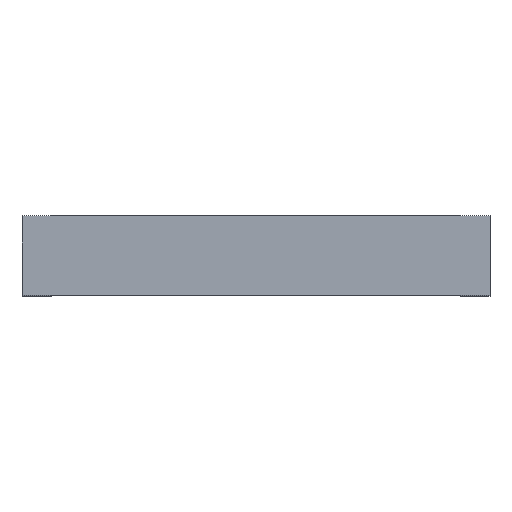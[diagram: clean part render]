
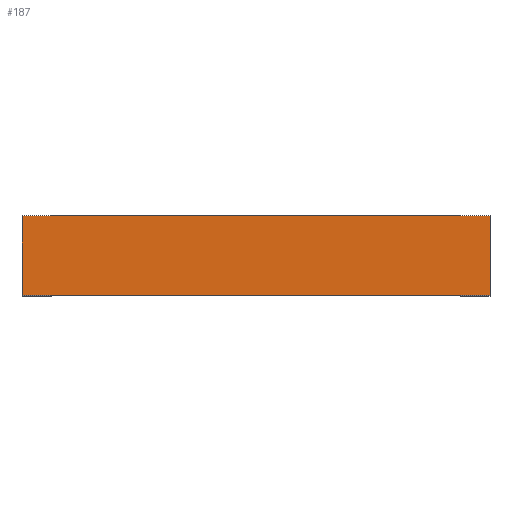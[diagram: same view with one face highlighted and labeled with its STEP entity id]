
A CAD part, top view. The second image highlights one B-rep face of the part: STEP entity #187.
In plain terms, the highlighted planar face has unit normal (0, 0, 1).
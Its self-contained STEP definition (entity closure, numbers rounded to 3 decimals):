
#21=FACE_OUTER_BOUND('',#31,.T.);
#31=EDGE_LOOP('',(#151,#152,#153,#154));
#41=LINE('',#276,#65);
#53=LINE('',#300,#77);
#54=LINE('',#303,#78);
#55=LINE('',#304,#79);
#65=VECTOR('',#227,10.);
#77=VECTOR('',#247,10.);
#78=VECTOR('',#250,10.);
#79=VECTOR('',#251,10.);
#87=VERTEX_POINT('',#272);
#88=VERTEX_POINT('',#274);
#96=VERTEX_POINT('',#298);
#97=VERTEX_POINT('',#302);
#105=EDGE_CURVE('',#88,#87,#41,.T.);
#117=EDGE_CURVE('',#88,#96,#53,.F.);
#118=EDGE_CURVE('',#97,#96,#54,.T.);
#119=EDGE_CURVE('',#87,#97,#55,.T.);
#151=ORIENTED_EDGE('',*,*,#117,.T.);
#152=ORIENTED_EDGE('',*,*,#118,.F.);
#153=ORIENTED_EDGE('',*,*,#119,.F.);
#154=ORIENTED_EDGE('',*,*,#105,.F.);
#177=PLANE('',#211);
#187=ADVANCED_FACE('',(#21),#177,.T.);
#211=AXIS2_PLACEMENT_3D('',#301,#248,#249);
#227=DIRECTION('',(0.,1.,0.));
#247=DIRECTION('',(-1.,0.,0.));
#248=DIRECTION('center_axis',(0.,0.,1.));
#249=DIRECTION('ref_axis',(0.,-1.,0.));
#250=DIRECTION('',(0.,-1.,0.));
#251=DIRECTION('',(1.,0.,0.));
#272=CARTESIAN_POINT('',(-60.7,-51.994,202.2));
#274=CARTESIAN_POINT('',(-60.7,-57.087,202.2));
#276=CARTESIAN_POINT('',(-60.7,-57.187,202.2));
#298=CARTESIAN_POINT('',(-30.7,-57.087,202.2));
#300=CARTESIAN_POINT('',(-32.7,-57.087,202.2));
#301=CARTESIAN_POINT('Origin',(-32.7,-51.894,202.2));
#302=CARTESIAN_POINT('',(-30.7,-51.994,202.2));
#303=CARTESIAN_POINT('',(-30.7,-51.894,202.2));
#304=CARTESIAN_POINT('',(-32.7,-51.994,202.2));
